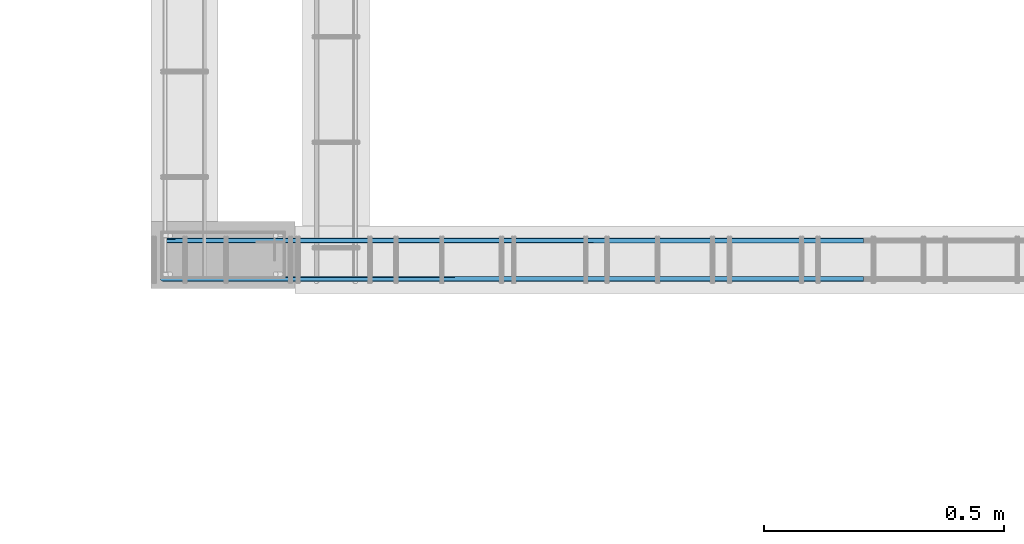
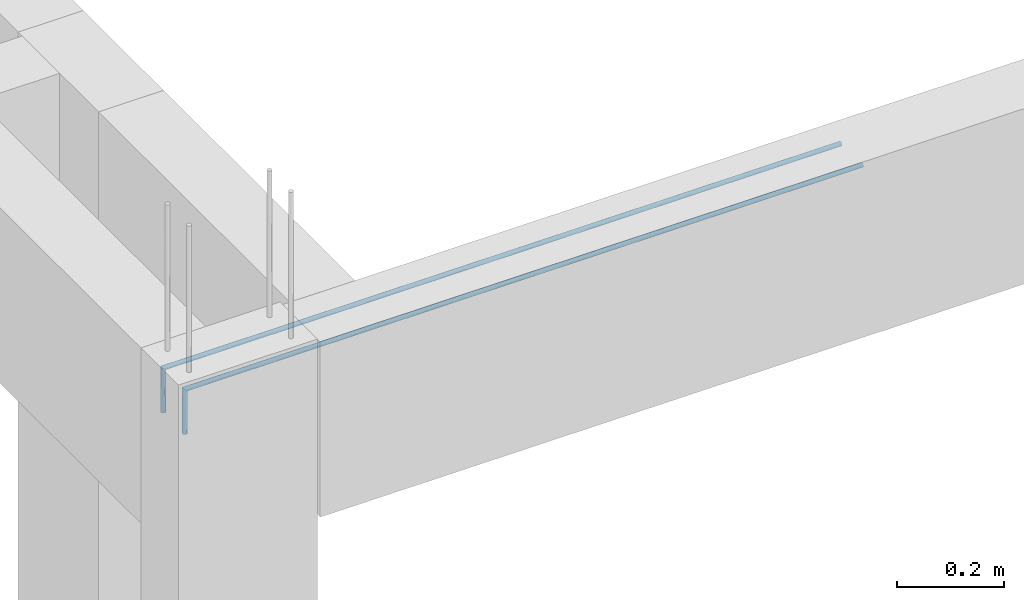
# One storey, part 14 of 236: 2 reinforcing bars.
"""IFC4 building model written with IfcOpenShell, lengths in centimetres."""

from ifc_helpers import new_model, entity, si_unit, derived_unit, frame, origin_with_axes, place, context, project, spatial, element, save


model = new_model("IFC4")

# Units and contexts
model_context = context("Model", 3, precision=1e-05, world=origin_with_axes(), identifier="Body")
ifc_project = project(units=[si_unit("LENGTHUNIT", "METRE", prefix="CENTI"), si_unit("VOLUMEUNIT", "CUBIC_METRE"), si_unit("AREAUNIT", "SQUARE_METRE"), si_unit("POWERUNIT", "WATT"), si_unit("LUMINOUSFLUXUNIT", "LUMEN"), si_unit("ELECTRICCURRENTUNIT", "AMPERE"), si_unit("PRESSUREUNIT", "PASCAL", prefix="KILO"), si_unit("MASSUNIT", "GRAM", prefix="KILO"), si_unit("PLANEANGLEUNIT", "RADIAN"), derived_unit("VOLUMETRICFLOWRATEUNIT", [(si_unit("LENGTHUNIT", "METRE"), 3), (si_unit("TIMEUNIT", "SECOND"), -1)])], contexts=[model_context])

# Site, building, storey
site_placement = place(None, frame((-4000.0, 0.0, 0.0), z_axis=(0.0, 0.0, 1.0), x_axis=(1.0, 0.0, 0.0)))
site = spatial("IfcSite", under=ifc_project, at=site_placement, Name="PADRÃO")
building_placement = place(site_placement, frame((0.0, 0.0, -14.0)))
building = spatial("IfcBuilding", under=site, at=building_placement, Name="CRECHE PRÉ-ESCOLA TIPO 2")
placement_1 = place(building_placement, origin_with_axes())
placement_2 = place(placement_1, frame((0.0, 0.0, 30.0), z_axis=(0.0, 0.0, 1.0), x_axis=(1.0, 0.0, 0.0)))
storey_placement = place(placement_2, frame((0.0, 0.0, 310.0), z_axis=(0.0, 0.0, 1.0), x_axis=(1.0, 0.0, 0.0)))
storey = spatial("IfcBuildingStorey", under=building, at=storey_placement, Name="TERREO", CompositionType="ELEMENT", Elevation=326.0)

# Reinforcing bars
for number, where, z_axis, x_axis, name in (
    (1, (540.282725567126, 411.000758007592, -2.49531217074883), (0.0, 0.0, 1.0), (1.0, 0.0, 0.0), "V257 - Longitudinal superior"),
    (2, (540.282594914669, 419.000758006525, -2.49531217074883), (0.0, 0.0, 1.0), (1.0, 0.0, 0.0), "V257 - Longitudinal superior"),
):
    element("IfcReinforcingBar", number, at=place(storey_placement, frame(where, z_axis=z_axis, x_axis=x_axis)), inside=storey, Name=name, BarLength=0.0, CrossSectionArea=7.853981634e-05, NominalDiameter=1.0, PredefinedType="MAIN", context=model_context, shape_type="AdvancedSweptSolid", body=[
        entity("IfcSweptDiskSolid", entity("IfcCompositeCurve", [entity("IfcCompositeCurveSegment", "CONTINUOUS", True, entity("IfcPolyline", [entity("IfcCartesianPoint", [-72.7826602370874, -0.001215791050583, -10.5046878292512]), entity("IfcCartesianPoint", [-72.7826602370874, -0.001215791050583, -0.504687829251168])])), entity("IfcCompositeCurveSegment", "CONTINUOUS", True, entity("IfcPolyline", [entity("IfcCartesianPoint", [-72.7826602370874, -0.001215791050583, -0.504687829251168]), entity("IfcCartesianPoint", [73.2873397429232, 0.001215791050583, -0.504687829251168])]))], False), 0.5),
    ])

save(model, "model.ifc")
